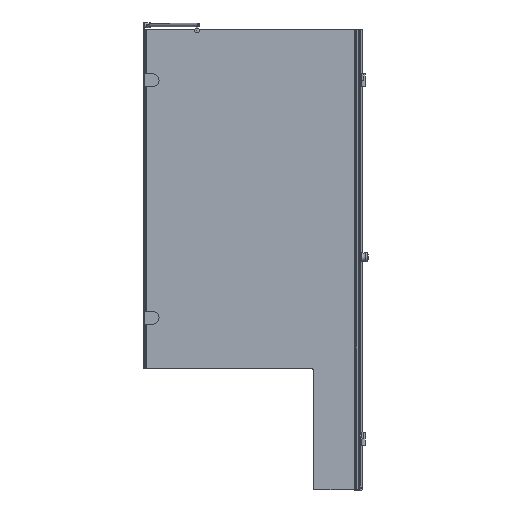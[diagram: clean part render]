
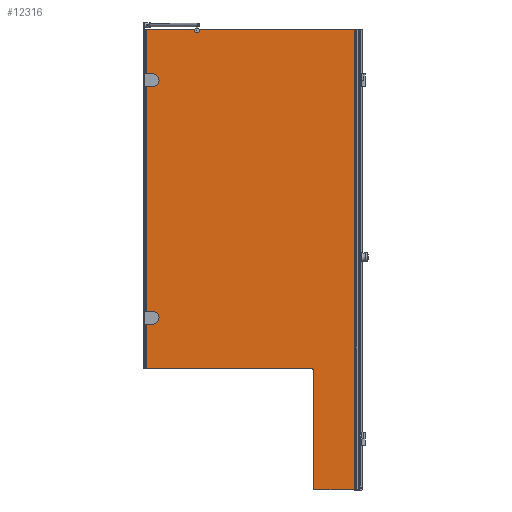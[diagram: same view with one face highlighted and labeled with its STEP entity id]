
A CAD part, front view. The second image highlights one B-rep face of the part: STEP entity #12316.
In plain terms, the highlighted planar face has unit normal (0, -1, 0).
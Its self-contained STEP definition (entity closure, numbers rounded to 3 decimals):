
#402=LINE($,#17734,#1618);
#407=LINE($,#17748,#1623);
#410=LINE($,#17753,#1626);
#440=LINE($,#17932,#1656);
#445=LINE($,#17946,#1661);
#448=LINE($,#17951,#1664);
#473=LINE($,#18338,#1689);
#1102=LINE($,#20163,#2318);
#1104=LINE($,#20167,#2320);
#1105=LINE($,#20169,#2321);
#1106=LINE($,#20171,#2322);
#1107=LINE($,#20174,#2323);
#1108=LINE($,#20176,#2324);
#1109=LINE($,#20177,#2325);
#1618=VECTOR($,#14366,15.);
#1623=VECTOR($,#14379,15.);
#1626=VECTOR($,#14384,52.);
#1656=VECTOR($,#14510,15.);
#1661=VECTOR($,#14523,15.);
#1664=VECTOR($,#14528,52.);
#1689=VECTOR($,#14665,642.066);
#2318=VECTOR($,#16222,168.419);
#2320=VECTOR($,#16226,198.474);
#2321=VECTOR($,#16227,1400.);
#2322=VECTOR($,#16228,679.);
#2323=VECTOR($,#16231,490.);
#2324=VECTOR($,#16232,1.019);
#2325=VECTOR($,#16233,1898.);
#2623=FACE_BOUND($,#4075,.T.);
#2624=FACE_BOUND($,#4076,.T.);
#2625=FACE_BOUND($,#4077,.T.);
#4075=EDGE_LOOP($,(#9868,#9869,#9870,#9871));
#4076=EDGE_LOOP($,(#9872,#9873,#9874,#9875));
#4077=EDGE_LOOP($,(#9876,#9877,#9878,#9879,#9880,#9881,#9882,#9883,#9884,
#9885,#9886));
#4323=CIRCLE($,#12722,26.);
#4348=CIRCLE($,#12775,26.);
#4366=CIRCLE($,#12809,10.);
#4490=CIRCLE($,#13132,2.);
#4529=CIRCLE($,#13300,10.);
#4894=VERTEX_POINT($,#17732);
#4895=VERTEX_POINT($,#17733);
#4898=VERTEX_POINT($,#17741);
#4900=VERTEX_POINT($,#17747);
#4941=VERTEX_POINT($,#17930);
#4942=VERTEX_POINT($,#17931);
#4945=VERTEX_POINT($,#17939);
#4947=VERTEX_POINT($,#17945);
#4969=VERTEX_POINT($,#18110);
#4970=VERTEX_POINT($,#18111);
#4998=VERTEX_POINT($,#18337);
#5395=VERTEX_POINT($,#19638);
#5396=VERTEX_POINT($,#19639);
#5488=VERTEX_POINT($,#20162);
#5489=VERTEX_POINT($,#20166);
#5490=VERTEX_POINT($,#20168);
#5491=VERTEX_POINT($,#20170);
#5492=VERTEX_POINT($,#20172);
#5493=VERTEX_POINT($,#20175);
#6067=EDGE_CURVE($,#4894,#4895,#402,.T.);
#6071=EDGE_CURVE($,#4895,#4898,#4323,.T.);
#6074=EDGE_CURVE($,#4898,#4900,#407,.T.);
#6077=EDGE_CURVE($,#4900,#4894,#410,.T.);
#6132=EDGE_CURVE($,#4941,#4942,#440,.T.);
#6136=EDGE_CURVE($,#4942,#4945,#4348,.T.);
#6139=EDGE_CURVE($,#4945,#4947,#445,.T.);
#6142=EDGE_CURVE($,#4947,#4941,#448,.T.);
#6173=EDGE_CURVE($,#4969,#4970,#4366,.T.);
#6209=EDGE_CURVE($,#4998,#4969,#473,.T.);
#6785=EDGE_CURVE($,#5395,#5396,#4490,.T.);
#7011=EDGE_CURVE($,#5395,#5488,#1102,.T.);
#7013=EDGE_CURVE($,#4970,#5489,#1104,.T.);
#7014=EDGE_CURVE($,#5489,#5490,#1105,.T.);
#7015=EDGE_CURVE($,#5490,#5491,#1106,.T.);
#7016=EDGE_CURVE($,#5492,#5491,#4529,.T.);
#7017=EDGE_CURVE($,#5492,#5488,#1107,.T.);
#7018=EDGE_CURVE($,#5396,#5493,#1108,.T.);
#7019=EDGE_CURVE($,#5493,#4998,#1109,.T.);
#9868=ORIENTED_EDGE($,*,*,#6067,.T.);
#9869=ORIENTED_EDGE($,*,*,#6071,.T.);
#9870=ORIENTED_EDGE($,*,*,#6074,.T.);
#9871=ORIENTED_EDGE($,*,*,#6077,.T.);
#9872=ORIENTED_EDGE($,*,*,#6132,.T.);
#9873=ORIENTED_EDGE($,*,*,#6136,.T.);
#9874=ORIENTED_EDGE($,*,*,#6139,.T.);
#9875=ORIENTED_EDGE($,*,*,#6142,.T.);
#9876=ORIENTED_EDGE($,*,*,#6173,.T.);
#9877=ORIENTED_EDGE($,*,*,#7013,.T.);
#9878=ORIENTED_EDGE($,*,*,#7014,.T.);
#9879=ORIENTED_EDGE($,*,*,#7015,.T.);
#9880=ORIENTED_EDGE($,*,*,#7016,.F.);
#9881=ORIENTED_EDGE($,*,*,#7017,.T.);
#9882=ORIENTED_EDGE($,*,*,#7011,.F.);
#9883=ORIENTED_EDGE($,*,*,#6785,.T.);
#9884=ORIENTED_EDGE($,*,*,#7018,.T.);
#9885=ORIENTED_EDGE($,*,*,#7019,.T.);
#9886=ORIENTED_EDGE($,*,*,#6209,.T.);
#11016=PLANE($,#13299);
#12316=ADVANCED_FACE($,(#2623,#2624,#2625),#11016,.T.);
#12722=AXIS2_PLACEMENT_3D($,#17742,#14372,#14373);
#12775=AXIS2_PLACEMENT_3D($,#17940,#14516,#14517);
#12809=AXIS2_PLACEMENT_3D($,#18112,#14597,#14598);
#13132=AXIS2_PLACEMENT_3D($,#19640,#15707,#15708);
#13299=AXIS2_PLACEMENT_3D($,#20165,#16224,#16225);
#13300=AXIS2_PLACEMENT_3D($,#20173,#16229,#16230);
#14366=DIRECTION($,(1.,0.,0.));
#14372=DIRECTION('center_axis',(0.,1.,0.));
#14373=DIRECTION('ref_axis',(0.,0.,
1.));
#14379=DIRECTION($,(-1.,0.,0.));
#14384=DIRECTION($,(0.,0.,1.));
#14510=DIRECTION($,(1.,0.,0.));
#14516=DIRECTION('center_axis',(0.,1.,0.));
#14517=DIRECTION('ref_axis',(0.,0.,
1.));
#14523=DIRECTION($,(-1.,0.,0.));
#14528=DIRECTION($,(0.,0.,1.));
#14597=DIRECTION('center_axis',(0.,1.,0.));
#14598=DIRECTION('ref_axis',(-0.597,0.,
0.802));
#14665=DIRECTION($,(-1.,0.,0.));
#15707=DIRECTION('center_axis',(0.,1.,0.));
#15708=DIRECTION('ref_axis',(-1.,0.,0.));
#16222=DIRECTION($,(-1.,0.,0.));
#16224=DIRECTION('center_axis',(0.,-1.,0.));
#16225=DIRECTION('ref_axis',(-1.,0.,0.));
#16226=DIRECTION($,(-1.,0.,0.));
#16227=DIRECTION($,(0.,0.,-1.));
#16228=DIRECTION($,(1.,0.,0.));
#16229=DIRECTION('center_axis',(0.,-1.,0.));
#16230=DIRECTION('ref_axis',(0.707,0.,0.707));
#16231=DIRECTION($,(0.,0.,-1.));
#16232=DIRECTION($,(-1.,0.,0.));
#16233=DIRECTION($,(0.,0.,1.));
#17732=CARTESIAN_POINT('',(387.019,-54.044,221.944));
#17733=CARTESIAN_POINT('',(402.019,-54.044,221.944));
#17734=CARTESIAN_POINT($,(821.519,-54.044,221.944));
#17741=CARTESIAN_POINT('',(402.019,-54.044,169.944));
#17742=CARTESIAN_POINT('Origin',(402.019,-54.044,195.944));
#17747=CARTESIAN_POINT('',(387.019,-54.044,169.944));
#17748=CARTESIAN_POINT($,(814.019,-54.044,169.944));
#17753=CARTESIAN_POINT($,(387.019,-54.044,803.944));
#17930=CARTESIAN_POINT('',(387.019,-54.044,1201.944));
#17931=CARTESIAN_POINT('',(402.019,-54.044,1201.944));
#17932=CARTESIAN_POINT($,(821.519,-54.044,1201.944));
#17939=CARTESIAN_POINT('',(402.019,-54.044,1149.944));
#17940=CARTESIAN_POINT('Origin',(402.019,-54.044,1175.944));
#17945=CARTESIAN_POINT('',(387.019,-54.044,1149.944));
#17946=CARTESIAN_POINT($,(814.019,-54.044,1149.944));
#17951=CARTESIAN_POINT($,(387.019,-54.044,1293.944));
#18110=CARTESIAN_POINT('',(594.353,-54.044,1385.944));
#18111=CARTESIAN_POINT('',(576.493,-54.044,1385.944));
#18112=CARTESIAN_POINT('Origin',(585.423,-54.044,1381.444));
#18337=CARTESIAN_POINT('',(1236.419,-54.044,1385.944));
#18338=CARTESIAN_POINT($,(1241.019,-54.044,1385.944));
#19638=CARTESIAN_POINT('',(1235.438,-54.044,-514.056));
#19639=CARTESIAN_POINT('',(1237.438,-54.044,-512.056));
#19640=CARTESIAN_POINT('Origin',(1237.438,-54.044,-514.056));
#20162=CARTESIAN_POINT('',(1067.019,-54.044,-514.056));
#20163=CARTESIAN_POINT($,(1241.019,-54.044,-514.056));
#20165=CARTESIAN_POINT('Origin',(1241.019,-54.044,1385.944));
#20166=CARTESIAN_POINT('',(378.019,-54.044,1385.944));
#20167=CARTESIAN_POINT($,(1241.019,-54.044,1385.944));
#20168=CARTESIAN_POINT('',(378.019,-54.044,-14.056));
#20169=CARTESIAN_POINT($,(378.019,-54.044,685.944));
#20170=CARTESIAN_POINT('',(1057.019,-54.044,-14.056));
#20171=CARTESIAN_POINT($,(1154.019,-54.044,-14.056));
#20172=CARTESIAN_POINT('',(1067.019,-54.044,-24.056));
#20173=CARTESIAN_POINT('Origin',(1057.019,-54.044,-24.056));
#20174=CARTESIAN_POINT($,(1067.019,-54.044,435.944));
#20175=CARTESIAN_POINT('',(1236.419,-54.044,-512.056));
#20176=CARTESIAN_POINT($,(1240.426,-54.044,-512.056));
#20177=CARTESIAN_POINT($,(1236.419,-54.044,-512.056));
